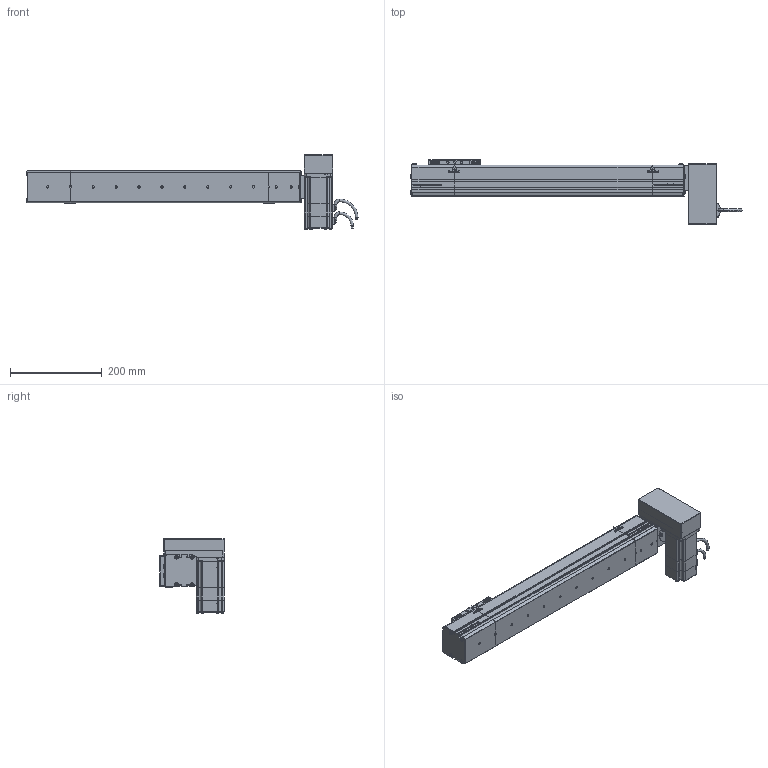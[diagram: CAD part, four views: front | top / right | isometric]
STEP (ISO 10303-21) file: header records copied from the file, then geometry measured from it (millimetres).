
FILE_DESCRIPTION (( 'STEP AP214' ), '1' );
FILE_NAME ('S07 CBN LU S500.STEP', '2010-06-29T09:41:42', ( 'Conseil Régional Haute-Normandie' ), ( 'Conseil Régional Haute-Normandie' ), 'SwSTEP 2.0', 'SolidWorks 2010', '' );
FILE_SCHEMA (( 'AUTOMOTIVE_DESIGN' ));
Length unit declared in the file: millimetre
Products named in the file (31): vis M5 L8_Default; support chariot_Default; chariot_Default; Chariot S07_Default; vis M5 L15_Default; plaque de serrage Tail_Default; Corp Tail_Default; Couvercle Tail_Default; Plaque de bout Tail_Default; Tail S07 Tail_Default; Corp LU_Default; Head LU_Default; S07 CBN LU S500; Cache Support Moteur LU_Default; plaque de serrage LU_Default; Plaque de bout LU_Default; Support Moteur LU_Default; Rondelle de Serrage LU_Default; Couvercle LU_Default; P2 90A_Default; P1_Default; 60BLDC90A-640_Default; Axe 60BLDC_Default; P4_Default; P3 90A_Default; VisM3_Default; Conecteur2 60BLDC_Default; Conecteur 60BLDC_Default; Couvercle S07 S500_Default; Corp S07 S500_Default
Assembly tree (71 placements, depth 4):
  S07 CBN LU S500
    Head LU_Default
      Support Moteur LU_Default
      Rondelle de Serrage LU_Default  x3
      vis M5 L15_Default  x16
      Plaque de bout LU_Default
      60BLDC90A-640_Default
        VisM3_Default  x12
        P2 90A_Default
        P4_Default
        Conecteur2 60BLDC_Default
        Conecteur 60BLDC_Default
        Axe 60BLDC_Default
        P3 90A_Default
        P1_Default
      plaque de serrage LU_Default
      Corp LU_Default
      Couvercle LU_Default
      Cache Support Moteur LU_Default
    Chariot S07_Default
      vis M5 L8_Default  x8
      support chariot_Default
      chariot_Default
    Corp S07 S500_Default
      Corp S07 S500_Default
      Couvercle S07 S500_Default
    Tail S07 Tail_Default
      Plaque de bout Tail_Default
      Couvercle Tail_Default
      Corp Tail_Default
      vis M5 L15_Default  x6
      plaque de serrage Tail_Default
Bounding box: 725.7 x 142 x 162 mm (x, y, z)
Volume: 3799441.3 mm3; surface area: 549994.8 mm2
Topology: 108 solids, 108 shells, 3880 faces, 9566 edges, 6156 vertices
Faces by surface type: plane 2246, bspline 756, cylinder 667, torus 112, cone 95, sphere 4
Entity records: 153033 total; most frequent: CARTESIAN_POINT 79539, ORIENTED_EDGE 14652, DIRECTION 10899, EDGE_CURVE 7326, VERTEX_POINT 4841, LINE 4765, VECTOR 4765, EDGE_LOOP 3133
